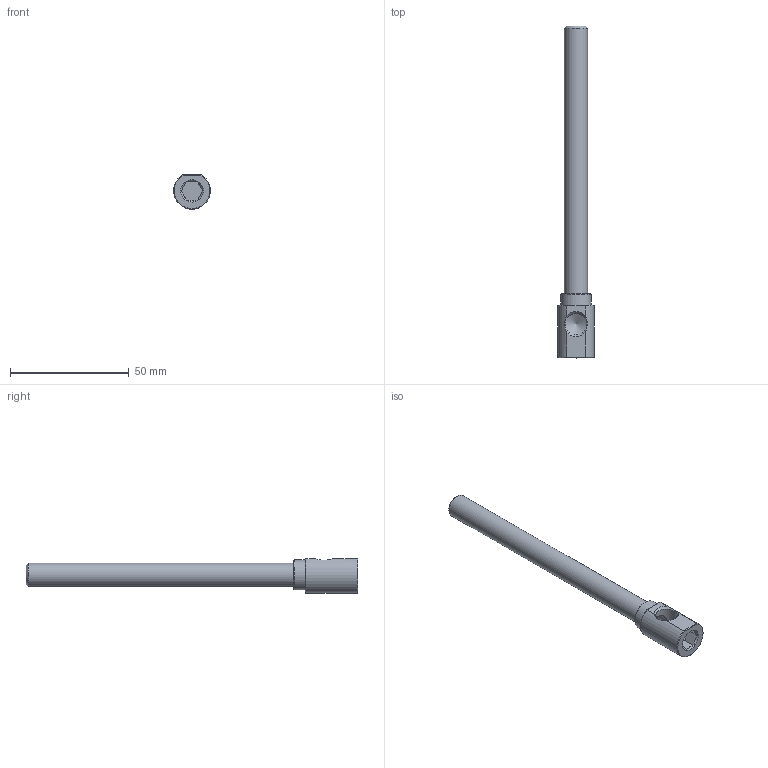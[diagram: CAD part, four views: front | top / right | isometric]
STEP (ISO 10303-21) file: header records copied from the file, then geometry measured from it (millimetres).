
FILE_DESCRIPTION(/* description */ (''),/* implementation_level */ '2;1');
FILE_NAME(/* name */ 'C:/Users/drich/Desktop/EKL18 X 5.5 v3.step',/* time_stamp */ '2019-11-18T14:39:52-06:00',/* author */ (''),/* organization */ (''),/* preprocessor_version */ 'ST-DEVELOPER v18',/* originating_system */ 'Autodesk Translation Framework v8.12.0.6',/* authorisation */ '');
FILE_SCHEMA (('AUTOMOTIVE_DESIGN { 1 0 10303 214 3 1 1 }'));
Length unit declared in the file: inch
Products named in the file (2): EKL18 X 5.5; EKL18 X 5-1/2
Assembly tree (1 placements, depth 2):
  EKL18 X 5.5
    EKL18 X 5-1/2
Bounding box: 15.49 x 139.7 x 14.48 mm (x, y, z)
Volume: 8133.2 mm3; surface area: 7941.4 mm2
Topology: 1 solids, 1 shells, 30 faces, 80 edges, 55 vertices
Faces by surface type: plane 16, cone 8, cylinder 6
Full cylindrical faces by diameter (mm): 6.35 x1, 9.004 x1, 9.398 x1, 9.794 x1, 12.7 x1
Entity records: 1047 total; most frequent: CARTESIAN_POINT 256, ORIENTED_EDGE 158, DIRECTION 151, EDGE_CURVE 79, AXIS2_PLACEMENT_3D 60, VERTEX_POINT 55, EDGE_LOOP 36, LINE 31
